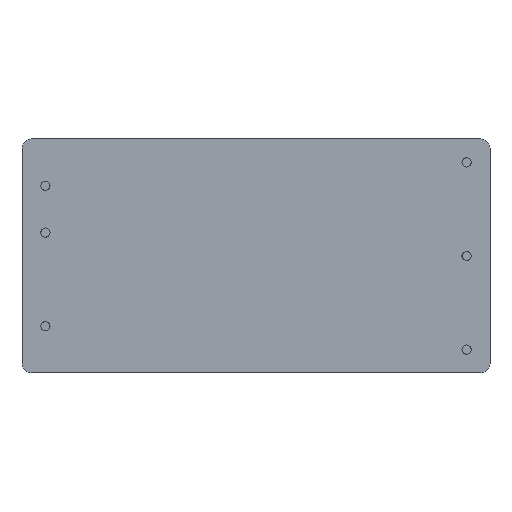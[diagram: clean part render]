
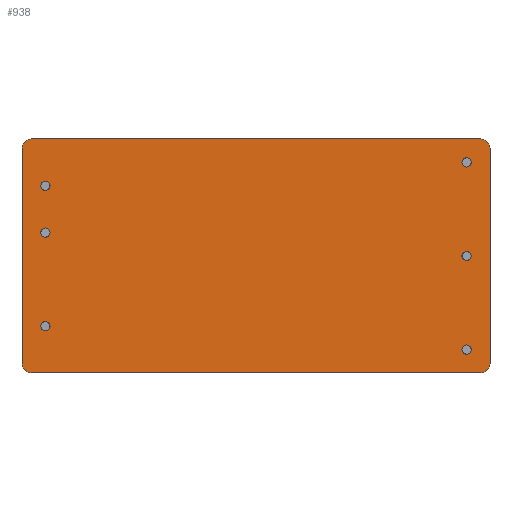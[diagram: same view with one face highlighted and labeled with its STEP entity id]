
A CAD part, front view. The second image highlights one B-rep face of the part: STEP entity #938.
In plain terms, the highlighted planar face has unit normal (0, -1, 0).
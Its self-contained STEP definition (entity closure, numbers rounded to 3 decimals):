
#46=PLANE('',#1033);
#85=LINE('',#3042,#121);
#91=LINE('',#3057,#127);
#93=LINE('',#3063,#129);
#94=LINE('',#3065,#130);
#121=VECTOR('',#1208,10.);
#127=VECTOR('',#1224,10.);
#129=VECTOR('',#1232,10.);
#130=VECTOR('',#1235,10.);
#196=FACE_OUTER_BOUND('',#262,.T.);
#262=EDGE_LOOP('',(#835,#836,#837,#838,#839,#840,#841,#842));
#323=CIRCLE('',#1017,1.);
#328=CIRCLE('',#1025,1.);
#329=CIRCLE('',#1027,1.);
#330=CIRCLE('',#1030,1.);
#443=VERTEX_POINT('',#3018);
#444=VERTEX_POINT('',#3019);
#453=VERTEX_POINT('',#3041);
#454=VERTEX_POINT('',#3045);
#455=VERTEX_POINT('',#3049);
#456=VERTEX_POINT('',#3050);
#457=VERTEX_POINT('',#3055);
#458=VERTEX_POINT('',#3059);
#567=EDGE_CURVE('',#443,#444,#323,.T.);
#578=EDGE_CURVE('',#453,#444,#85,.T.);
#580=EDGE_CURVE('',#453,#454,#328,.T.);
#582=EDGE_CURVE('',#455,#456,#329,.T.);
#586=EDGE_CURVE('',#455,#457,#91,.T.);
#587=EDGE_CURVE('',#458,#457,#330,.T.);
#589=EDGE_CURVE('',#443,#456,#93,.T.);
#590=EDGE_CURVE('',#458,#454,#94,.T.);
#835=ORIENTED_EDGE('',*,*,#567,.F.);
#836=ORIENTED_EDGE('',*,*,#589,.T.);
#837=ORIENTED_EDGE('',*,*,#582,.F.);
#838=ORIENTED_EDGE('',*,*,#586,.T.);
#839=ORIENTED_EDGE('',*,*,#587,.F.);
#840=ORIENTED_EDGE('',*,*,#590,.T.);
#841=ORIENTED_EDGE('',*,*,#580,.F.);
#842=ORIENTED_EDGE('',*,*,#578,.T.);
#938=ADVANCED_FACE('',(#196),#46,.T.);
#1017=AXIS2_PLACEMENT_3D('',#3020,#1188,#1189);
#1025=AXIS2_PLACEMENT_3D('',#3046,#1212,#1213);
#1027=AXIS2_PLACEMENT_3D('',#3051,#1217,#1218);
#1030=AXIS2_PLACEMENT_3D('',#3060,#1227,#1228);
#1033=AXIS2_PLACEMENT_3D('',#3066,#1236,#1237);
#1188=DIRECTION('center_axis',(0.,1.,0.));
#1189=DIRECTION('ref_axis',(0.707,0.,-0.707));
#1208=DIRECTION('',(1.,0.,0.));
#1212=DIRECTION('center_axis',(0.,1.,0.));
#1213=DIRECTION('ref_axis',(-0.707,0.,-0.707));
#1217=DIRECTION('center_axis',(0.,1.,0.));
#1218=DIRECTION('ref_axis',(0.707,0.,0.707));
#1224=DIRECTION('',(-1.,0.,0.));
#1227=DIRECTION('center_axis',(0.,1.,0.));
#1228=DIRECTION('ref_axis',(-0.707,0.,0.707));
#1232=DIRECTION('',(0.,0.,1.));
#1235=DIRECTION('',(0.,0.,-1.));
#1236=DIRECTION('center_axis',(0.,-1.,0.));
#1237=DIRECTION('ref_axis',(0.,0.,-1.));
#3018=CARTESIAN_POINT('',(25.4,-0.6,-11.7));
#3019=CARTESIAN_POINT('',(24.4,-0.6,-12.7));
#3020=CARTESIAN_POINT('Origin',(24.4,-0.6,-11.7));
#3041=CARTESIAN_POINT('',(-24.4,-0.6,-12.7));
#3042=CARTESIAN_POINT('',(25.4,-0.6,-12.7));
#3045=CARTESIAN_POINT('',(-25.4,-0.6,-11.7));
#3046=CARTESIAN_POINT('Origin',(-24.4,-0.6,-11.7));
#3049=CARTESIAN_POINT('',(24.4,-0.6,12.7));
#3050=CARTESIAN_POINT('',(25.4,-0.6,11.7));
#3051=CARTESIAN_POINT('Origin',(24.4,-0.6,11.7));
#3055=CARTESIAN_POINT('',(-24.4,-0.6,12.7));
#3057=CARTESIAN_POINT('',(-25.4,-0.6,12.7));
#3059=CARTESIAN_POINT('',(-25.4,-0.6,11.7));
#3060=CARTESIAN_POINT('Origin',(-24.4,-0.6,11.7));
#3063=CARTESIAN_POINT('',(25.4,-0.6,12.7));
#3065=CARTESIAN_POINT('',(-25.4,-0.6,-12.7));
#3066=CARTESIAN_POINT('Origin',(0.,-0.6,0.));
